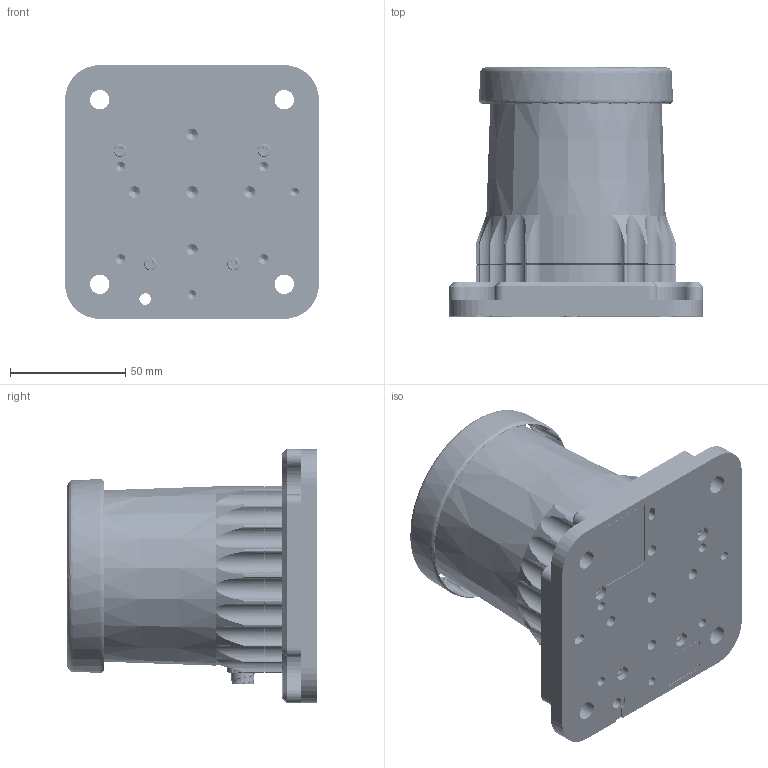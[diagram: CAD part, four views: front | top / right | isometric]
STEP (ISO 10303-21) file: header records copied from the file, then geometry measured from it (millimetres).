
FILE_DESCRIPTION (( 'STEP AP214' ), '1' );
FILE_NAME ('861-OS_DHA_REV8, FAMILY customer.STEP', '2026-04-30T02:00:35', ( '' ), ( '' ), 'SwSTEP 2.0', 'SolidWorks 2022', '' );
FILE_SCHEMA (( 'AUTOMOTIVE_DESIGN' ));
Length unit declared in the file: millimetre
Products named in the file (1): 861-OS_DHA_REV8, FAMILY customer
Bounding box: 110 x 108.11 x 110 mm (x, y, z)
Volume: 409207.8 mm3; surface area: 147893.5 mm2
Topology: 25 solids, 25 shells, 3650 faces, 10033 edges, 6410 vertices
Faces by surface type: cylinder 1504, cone 811, plane 740, bspline 525, torus 70
Entity records: 227241 total; most frequent: CARTESIAN_POINT 102241, ORIENTED_EDGE 19778, DIRECTION 15467, EDGE_CURVE 9889, VERTEX_POINT 6410, AXIS2_PLACEMENT_3D 6210, EDGE_LOOP 3879, UNCERTAINTY_MEASURE_WITH_UNIT 3677
